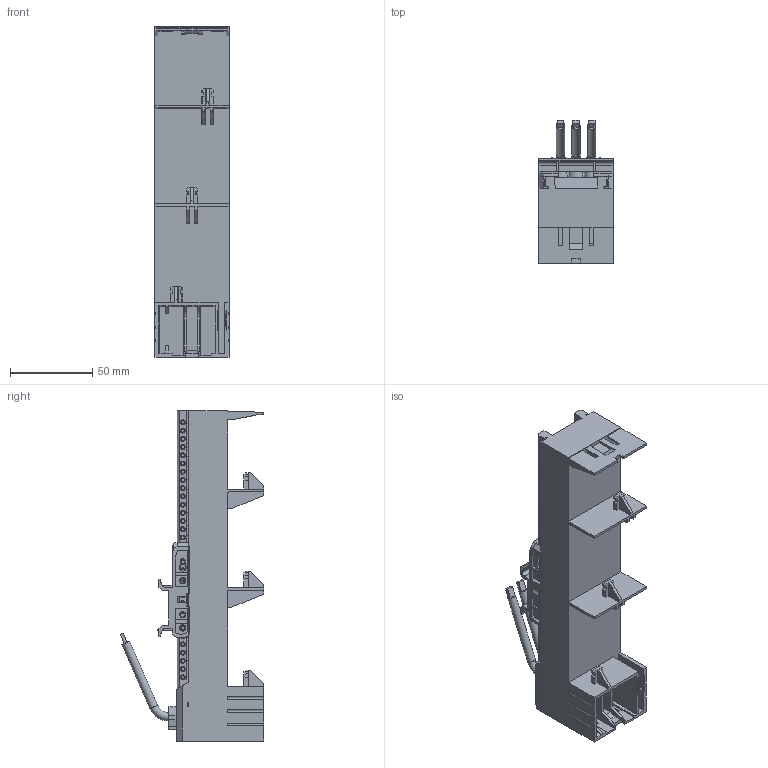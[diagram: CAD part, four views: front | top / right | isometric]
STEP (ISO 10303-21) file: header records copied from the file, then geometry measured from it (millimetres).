
FILE_DESCRIPTION (( 'STEP AP203' ), '1' );
FILE_NAME ('55320.STEP', '2021-08-16T06:02:22', ( '' ), ( '' ), 'SwSTEP 2.0', 'SolidWorks 2017', '' );
FILE_SCHEMA (( 'CONFIG_CONTROL_DESIGN' ));
Length unit declared in the file: millimetre
Products named in the file (2): 55320
Bounding box: 45.01 x 87.2 x 200.7 mm (x, y, z)
Volume: 260667.9 mm3; surface area: 75380.6 mm2
Topology: 5 solids, 13 shells, 1819 faces, 5075 edges, 3413 vertices
Faces by surface type: plane 1107, cylinder 537, cone 156, bspline 16, torus 3
Full cylindrical faces by diameter (mm): 1.988 x130, 2.779 x4, 2.882 x6, 2.982 x130, 4.864 x4, 5 x6, 5.169 x2
Entity records: 64997 total; most frequent: CARTESIAN_POINT 21649, ORIENTED_EDGE 9030, DIRECTION 7951, EDGE_CURVE 4515, VERTEX_POINT 3274, VECTOR 2801, LINE 2801, AXIS2_PLACEMENT_3D 2575
